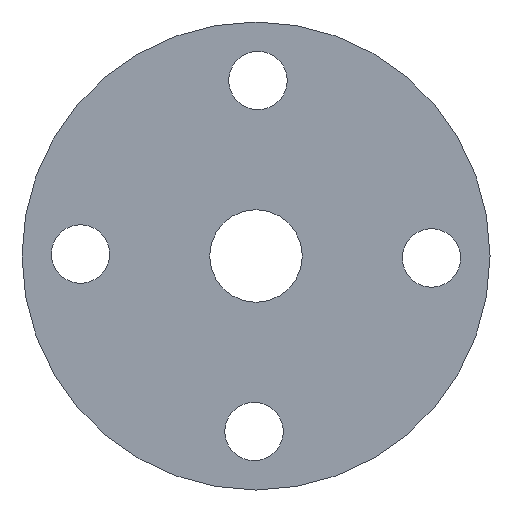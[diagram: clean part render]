
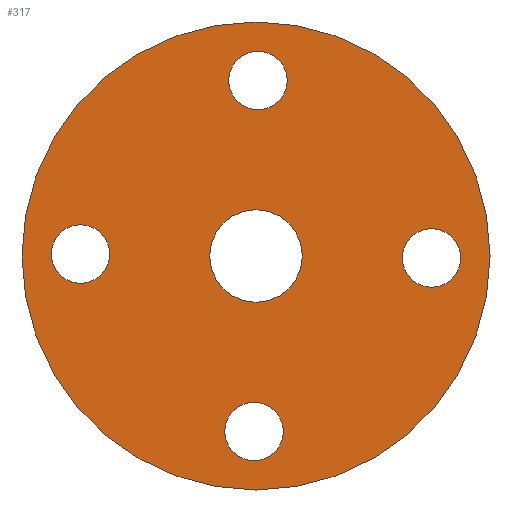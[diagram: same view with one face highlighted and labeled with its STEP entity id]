
A CAD part, front view. The second image highlights one B-rep face of the part: STEP entity #317.
In plain terms, the highlighted planar face has unit normal (0, -1, 0).
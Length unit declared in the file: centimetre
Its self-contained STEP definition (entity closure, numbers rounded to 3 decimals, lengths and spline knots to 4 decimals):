
#42=FACE_BOUND('',#117,.T.);
#43=FACE_BOUND('',#118,.T.);
#44=FACE_BOUND('',#119,.T.);
#45=FACE_BOUND('',#120,.T.);
#46=FACE_BOUND('',#121,.T.);
#52=CIRCLE('',#337,0.5017);
#53=CIRCLE('',#339,0.3175);
#55=CIRCLE('',#342,0.3175);
#57=CIRCLE('',#345,0.3175);
#59=CIRCLE('',#348,0.3175);
#61=CIRCLE('',#351,2.54);
#81=FACE_OUTER_BOUND('',#116,.T.);
#116=EDGE_LOOP('',(#282));
#117=EDGE_LOOP('',(#283));
#118=EDGE_LOOP('',(#284));
#119=EDGE_LOOP('',(#285));
#120=EDGE_LOOP('',(#286));
#121=EDGE_LOOP('',(#287));
#175=VERTEX_POINT('',#498);
#176=VERTEX_POINT('',#501);
#178=VERTEX_POINT('',#506);
#180=VERTEX_POINT('',#511);
#182=VERTEX_POINT('',#516);
#184=VERTEX_POINT('',#521);
#209=EDGE_CURVE('',#175,#175,#52,.T.);
#210=EDGE_CURVE('',#176,#176,#53,.T.);
#212=EDGE_CURVE('',#178,#178,#55,.T.);
#214=EDGE_CURVE('',#180,#180,#57,.T.);
#216=EDGE_CURVE('',#182,#182,#59,.T.);
#218=EDGE_CURVE('',#184,#184,#61,.T.);
#282=ORIENTED_EDGE('',*,*,#218,.T.);
#283=ORIENTED_EDGE('',*,*,#216,.T.);
#284=ORIENTED_EDGE('',*,*,#214,.T.);
#285=ORIENTED_EDGE('',*,*,#212,.T.);
#286=ORIENTED_EDGE('',*,*,#210,.T.);
#287=ORIENTED_EDGE('',*,*,#209,.T.);
#298=PLANE('',#354);
#317=ADVANCED_FACE('',(#81,#42,#43,#44,#45,#46),#298,.F.);
#337=AXIS2_PLACEMENT_3D('',#499,#409,#410);
#339=AXIS2_PLACEMENT_3D('',#502,#413,#414);
#342=AXIS2_PLACEMENT_3D('',#507,#419,#420);
#345=AXIS2_PLACEMENT_3D('',#512,#425,#426);
#348=AXIS2_PLACEMENT_3D('',#517,#431,#432);
#351=AXIS2_PLACEMENT_3D('',#522,#437,#438);
#354=AXIS2_PLACEMENT_3D('',#526,#443,#444);
#409=DIRECTION('center_axis',(0.,1.,0.));
#410=DIRECTION('ref_axis',(1.,0.,0.));
#413=DIRECTION('center_axis',(0.,1.,0.));
#414=DIRECTION('ref_axis',(1.,0.,0.));
#419=DIRECTION('center_axis',(0.,1.,0.));
#420=DIRECTION('ref_axis',(1.,0.,0.));
#425=DIRECTION('center_axis',(0.,1.,0.));
#426=DIRECTION('ref_axis',(1.,0.,0.));
#431=DIRECTION('center_axis',(0.,1.,0.));
#432=DIRECTION('ref_axis',(1.,0.,0.));
#437=DIRECTION('center_axis',(0.,-1.,0.));
#438=DIRECTION('ref_axis',(1.,0.,0.));
#443=DIRECTION('center_axis',(0.,1.,0.));
#444=DIRECTION('ref_axis',(1.,0.,0.));
#498=CARTESIAN_POINT('',(-0.5017,-0.9525,0.));
#499=CARTESIAN_POINT('Origin',(0.,-0.9525,0.));
#501=CARTESIAN_POINT('',(-0.3387,-0.9525,-1.9049));
#502=CARTESIAN_POINT('Origin',(-0.0212,-0.9525,-1.9049));
#506=CARTESIAN_POINT('',(-2.2224,-0.9525,0.0212));
#507=CARTESIAN_POINT('Origin',(-1.9049,-0.9525,0.0212));
#511=CARTESIAN_POINT('',(1.5874,-0.9525,-0.0212));
#512=CARTESIAN_POINT('Origin',(1.9049,-0.9525,-0.0212));
#516=CARTESIAN_POINT('',(-0.2963,-0.9525,1.9049));
#517=CARTESIAN_POINT('Origin',(0.0212,-0.9525,1.9049));
#521=CARTESIAN_POINT('',(-2.54,-0.9525,0.));
#522=CARTESIAN_POINT('Origin',(0.,-0.9525,0.));
#526=CARTESIAN_POINT('Origin',(0.,-0.9525,0.));
